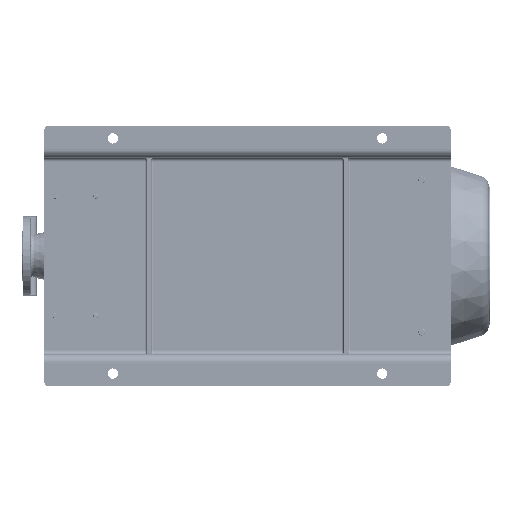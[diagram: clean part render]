
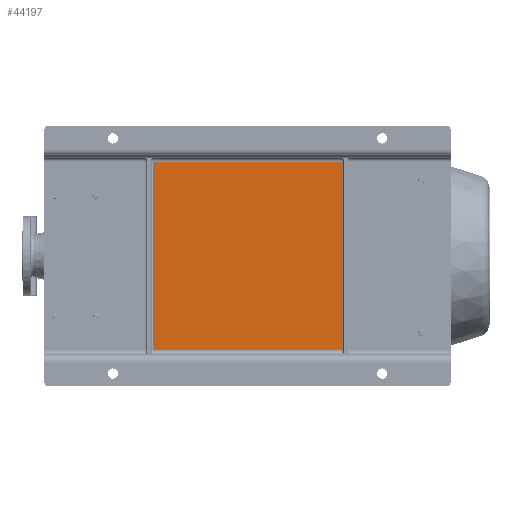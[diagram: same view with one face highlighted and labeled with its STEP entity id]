
A CAD part, front view. The second image highlights one B-rep face of the part: STEP entity #44197.
In plain terms, the highlighted planar face has unit normal (0, -1, 0).
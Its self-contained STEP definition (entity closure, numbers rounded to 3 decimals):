
#7739 = CARTESIAN_POINT ( 'NONE',  ( 75., 65., -695. ) ) ;
#11696 = VECTOR ( 'NONE', #31750, 1000. ) ;
#14108 = CARTESIAN_POINT ( 'NONE',  ( 75., 65., -950. ) ) ;
#21988 = VECTOR ( 'NONE', #91733, 1000. ) ;
#28451 = ORIENTED_EDGE ( 'NONE', *, *, #147896, .T. ) ;
#28762 = CARTESIAN_POINT ( 'NONE',  ( 75., 65., -255. ) ) ;
#30589 = EDGE_CURVE ( 'NONE', #101655, #76723, #129572, .T. ) ;
#31750 = DIRECTION ( 'NONE',  ( 0., 0., -1. ) ) ;
#34104 = CARTESIAN_POINT ( 'NONE',  ( 525., 65., -255. ) ) ;
#35225 = EDGE_LOOP ( 'NONE', ( #174886, #127016, #170898, #28451 ) ) ;
#37248 = LINE ( 'NONE', #7739, #21988 ) ;
#44197 = ADVANCED_FACE ( 'NONE', ( #52901 ), #168090, .T. ) ;
#52901 = FACE_OUTER_BOUND ( 'NONE', #35225, .T. ) ;
#54763 = CARTESIAN_POINT ( 'NONE',  ( 525., 65., -695. ) ) ;
#56248 = DIRECTION ( 'NONE',  ( 0., 0., 1. ) ) ;
#56406 = VERTEX_POINT ( 'NONE', #54763 ) ;
#57141 = VERTEX_POINT ( 'NONE', #34104 ) ;
#69251 = EDGE_CURVE ( 'NONE', #56406, #57141, #95327, .T. ) ;
#71431 = CARTESIAN_POINT ( 'NONE',  ( 85., 65., -700. ) ) ;
#72782 = EDGE_CURVE ( 'NONE', #76723, #56406, #37248, .T. ) ;
#76723 = VERTEX_POINT ( 'NONE', #100126 ) ;
#81124 = CARTESIAN_POINT ( 'NONE',  ( 85., 65., -255. ) ) ;
#90126 = VECTOR ( 'NONE', #56248, 1000. ) ;
#91733 = DIRECTION ( 'NONE',  ( 1., 0., 0. ) ) ;
#95327 = LINE ( 'NONE', #151549, #90126 ) ;
#100126 = CARTESIAN_POINT ( 'NONE',  ( 85., 65., -695. ) ) ;
#101655 = VERTEX_POINT ( 'NONE', #81124 ) ;
#104717 = VECTOR ( 'NONE', #115490, 1000. ) ;
#113642 = LINE ( 'NONE', #28762, #104717 ) ;
#115490 = DIRECTION ( 'NONE',  ( -1., 0., 0. ) ) ;
#123068 = DIRECTION ( 'NONE',  ( 0., -1., 0. ) ) ;
#126315 = AXIS2_PLACEMENT_3D ( 'NONE', #14108, #123068, #181945 ) ;
#127016 = ORIENTED_EDGE ( 'NONE', *, *, #72782, .T. ) ;
#129572 = LINE ( 'NONE', #71431, #11696 ) ;
#147896 = EDGE_CURVE ( 'NONE', #57141, #101655, #113642, .T. ) ;
#151549 = CARTESIAN_POINT ( 'NONE',  ( 525., 65., -250. ) ) ;
#168090 = PLANE ( 'NONE',  #126315 ) ;
#170898 = ORIENTED_EDGE ( 'NONE', *, *, #69251, .T. ) ;
#174886 = ORIENTED_EDGE ( 'NONE', *, *, #30589, .T. ) ;
#181945 = DIRECTION ( 'NONE',  ( 0., 0., -1. ) ) ;
